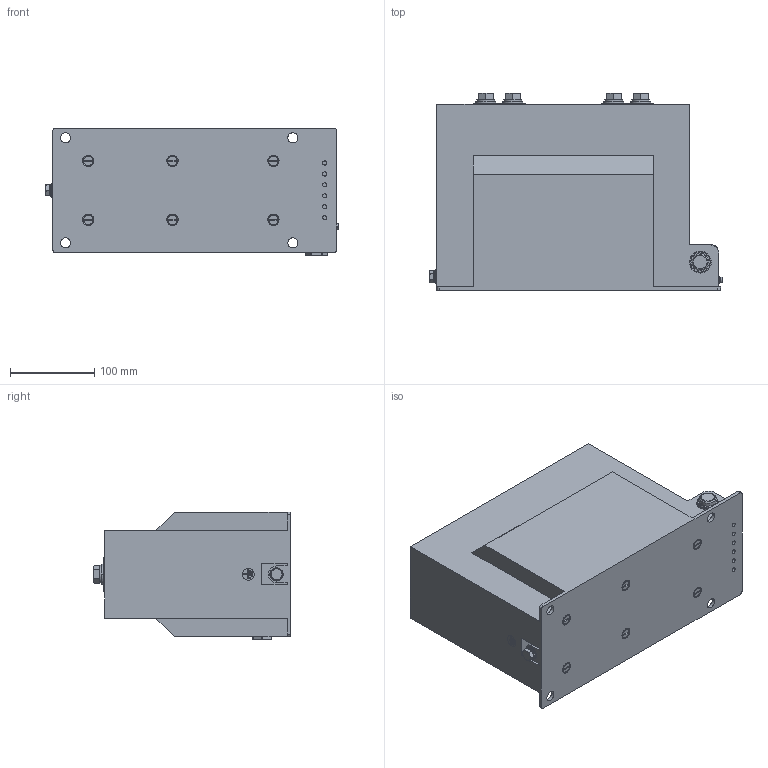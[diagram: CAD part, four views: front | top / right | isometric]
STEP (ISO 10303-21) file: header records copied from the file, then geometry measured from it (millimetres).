
FILE_DESCRIPTION (( 'STEP AP203' ), '1' );
FILE_NAME ('CTS_12_S__650A.STEP', '2014-07-03T10:33:13', ( '' ), ( '' ), 'SwSTEP 2.0', 'SolidWorks 2014', '' );
FILE_SCHEMA (( 'CONFIG_CONTROL_DESIGN' ));
Length unit declared in the file: millimetre
Products named in the file (1): CTS_12_S__650A
Bounding box: 347.5 x 234.1 x 151.9 mm (x, y, z)
Volume: 8370978.8 mm3; surface area: 334248.8 mm2
Topology: 1 solids, 7 shells, 880 faces, 2181 edges, 1341 vertices
Faces by surface type: plane 385, cylinder 315, cone 72, torus 49, bspline 38, sphere 21
Entity records: 32484 total; most frequent: CARTESIAN_POINT 11559, DIRECTION 4468, ORIENTED_EDGE 4290, EDGE_CURVE 2145, AXIS2_PLACEMENT_3D 1701, VERTEX_POINT 1333, VECTOR 1066, LINE 1066
